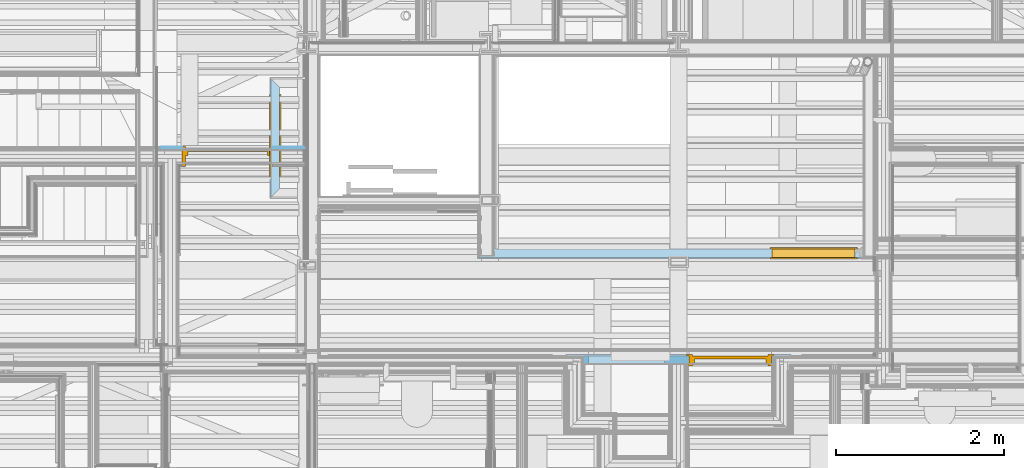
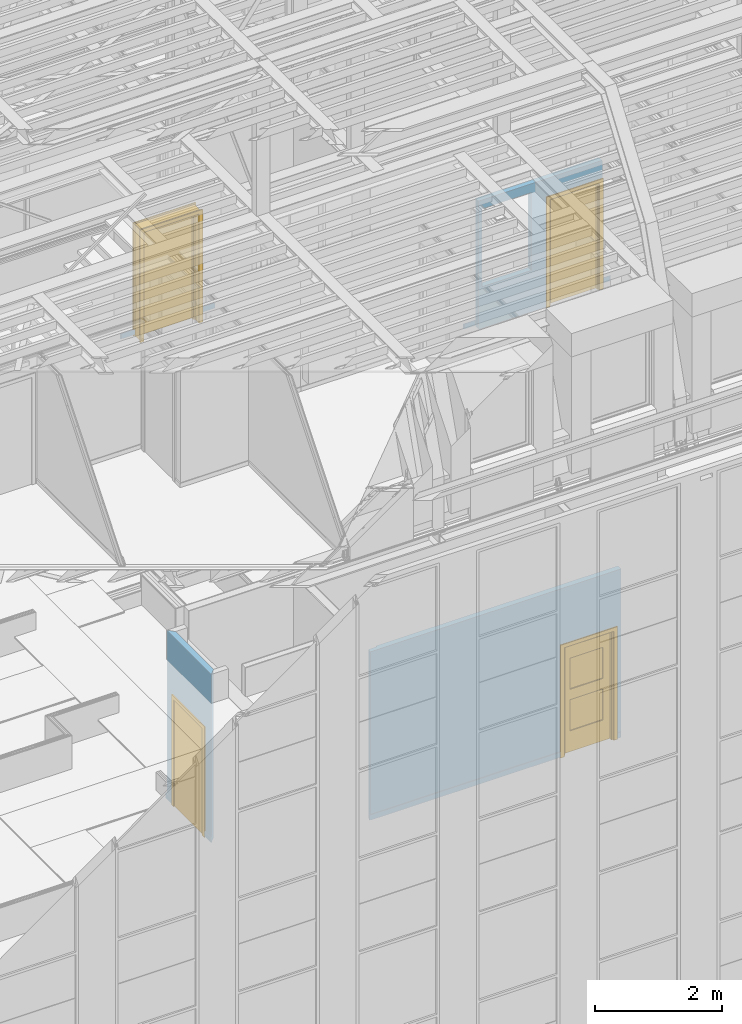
# One storey, part 98 of 183: 4 doors, 5 openings, plus 4 elements that do not belong to this part.
"""IFC2X3 building model written with IfcOpenShell, lengths in metres."""

from ifc_helpers import new_model, entity, si_unit, converted_unit, derived_unit, money_unit, direction, frame, frame_2d, origin_with_axes, place, context, subcontext, project, spatial, polyline, rectangle, outline, extrude, clip, bounded_halfspace, faceted_brep, material, layer, layer_set, layer_usage, type_object, element, fill, save


model = new_model("IFC2X3")

# Units and contexts
model_context = context("Model", 3, precision=1e-05, world=origin_with_axes(), true_north=direction((0.0, 1.0)))
body_context = subcontext(model_context, "Body", "Model", "MODEL_VIEW", scale=1.0)
ifc_project = project(units=[si_unit("LENGTHUNIT", "METRE"), si_unit("AREAUNIT", "SQUARE_METRE"), si_unit("VOLUMEUNIT", "CUBIC_METRE"), si_unit("ABSORBEDDOSEUNIT", "GRAY"), si_unit("AMOUNTOFSUBSTANCEUNIT", "MOLE"), si_unit("DOSEEQUIVALENTUNIT", "SIEVERT"), si_unit("ELECTRICCAPACITANCEUNIT", "FARAD"), si_unit("ELECTRICCHARGEUNIT", "COULOMB"), si_unit("ELECTRICCONDUCTANCEUNIT", "SIEMENS"), si_unit("ELECTRICCURRENTUNIT", "AMPERE"), si_unit("ELECTRICRESISTANCEUNIT", "OHM"), si_unit("ELECTRICVOLTAGEUNIT", "VOLT"), si_unit("ENERGYUNIT", "JOULE"), si_unit("FORCEUNIT", "NEWTON"), si_unit("FREQUENCYUNIT", "HERTZ"), si_unit("ILLUMINANCEUNIT", "LUX"), si_unit("INDUCTANCEUNIT", "HENRY"), si_unit("LUMINOUSFLUXUNIT", "LUMEN"), si_unit("LUMINOUSINTENSITYUNIT", "CANDELA"), si_unit("MAGNETICFLUXDENSITYUNIT", "TESLA"), si_unit("MAGNETICFLUXUNIT", "WEBER"), si_unit("MASSUNIT", "GRAM"), converted_unit("PLANEANGLEUNIT", "degree", entity("IfcReal", 0.0174532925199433), si_unit("PLANEANGLEUNIT", "RADIAN"), dimensions=[0, 0, 0, 0, 0, 0, 0]), si_unit("POWERUNIT", "WATT"), si_unit("PRESSUREUNIT", "PASCAL"), si_unit("RADIOACTIVITYUNIT", "BECQUEREL"), si_unit("SOLIDANGLEUNIT", "STERADIAN"), si_unit("THERMODYNAMICTEMPERATUREUNIT", "KELVIN"), si_unit("TIMEUNIT", "SECOND"), derived_unit("ACCELERATIONUNIT", [(si_unit("LENGTHUNIT", "METRE"), 1), (si_unit("TIMEUNIT", "SECOND"), -2)]), derived_unit("ANGULARVELOCITYUNIT", [(converted_unit("PLANEANGLEUNIT", "degree", entity("IfcReal", 0.0174532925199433), si_unit("PLANEANGLEUNIT", "RADIAN"), dimensions=[0, 0, 0, 0, 0, 0, 0]), 1), (si_unit("TIMEUNIT", "SECOND"), -1)]), derived_unit("CURVATUREUNIT", [(converted_unit("PLANEANGLEUNIT", "degree", entity("IfcReal", 0.0174532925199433), si_unit("PLANEANGLEUNIT", "RADIAN"), dimensions=[0, 0, 0, 0, 0, 0, 0]), 1), (si_unit("LENGTHUNIT", "METRE"), -1)]), derived_unit("DYNAMICVISCOSITYUNIT", [(si_unit("PRESSUREUNIT", "PASCAL"), 1), (si_unit("TIMEUNIT", "SECOND"), 1)]), derived_unit("HEATFLUXDENSITYUNIT", [(si_unit("POWERUNIT", "WATT"), 1), (si_unit("LENGTHUNIT", "METRE"), -2)]), derived_unit("HEATINGVALUEUNIT", [(si_unit("ENERGYUNIT", "JOULE"), 1), (si_unit("MASSUNIT", "GRAM"), -1)]), derived_unit("INTEGERCOUNTRATEUNIT", [(si_unit("TIMEUNIT", "SECOND"), -1)]), derived_unit("IONCONCENTRATIONUNIT", [(si_unit("MASSUNIT", "GRAM"), 1), (si_unit("VOLUMEUNIT", "CUBIC_METRE"), -1)]), derived_unit("ISOTHERMALMOISTURECAPACITYUNIT", [(si_unit("VOLUMEUNIT", "CUBIC_METRE"), 1), (si_unit("MASSUNIT", "GRAM"), -1)]), derived_unit("KINEMATICVISCOSITYUNIT", [(si_unit("AREAUNIT", "SQUARE_METRE"), 1), (si_unit("TIMEUNIT", "SECOND"), -1)]), derived_unit("LINEARFORCEUNIT", [(si_unit("FORCEUNIT", "NEWTON"), 1), (si_unit("LENGTHUNIT", "METRE"), -1)]), derived_unit("LINEARMOMENTUNIT", [(si_unit("FORCEUNIT", "NEWTON"), 1), (si_unit("LENGTHUNIT", "METRE"), -1)]), derived_unit("LINEARSTIFFNESSUNIT", [(si_unit("FORCEUNIT", "NEWTON"), 1), (si_unit("LENGTHUNIT", "METRE"), -1)]), derived_unit("LINEARVELOCITYUNIT", [(si_unit("LENGTHUNIT", "METRE"), 1), (si_unit("TIMEUNIT", "SECOND"), -1)]), derived_unit("LUMINOUSINTENSITYDISTRIBUTIONUNIT", [(si_unit("LUMINOUSINTENSITYUNIT", "CANDELA"), 1), (si_unit("LUMINOUSFLUXUNIT", "LUMEN"), -1)]), derived_unit("MASSDENSITYUNIT", [(si_unit("MASSUNIT", "GRAM"), 1), (si_unit("VOLUMEUNIT", "CUBIC_METRE"), -1)]), derived_unit("MASSFLOWRATEUNIT", [(si_unit("MASSUNIT", "GRAM"), 1), (si_unit("TIMEUNIT", "SECOND"), -1)]), derived_unit("MASSPERLENGTHUNIT", [(si_unit("MASSUNIT", "GRAM"), 1), (si_unit("LENGTHUNIT", "METRE"), -1)]), derived_unit("MODULUSOFELASTICITYUNIT", [(si_unit("FORCEUNIT", "NEWTON"), 1), (si_unit("AREAUNIT", "SQUARE_METRE"), -1)]), derived_unit("MODULUSOFLINEARSUBGRADEREACTIONUNIT", [(si_unit("FORCEUNIT", "NEWTON"), 1), (si_unit("LENGTHUNIT", "METRE"), -2)]), derived_unit("MODULUSOFROTATIONALSUBGRADEREACTIONUNIT", [(si_unit("FORCEUNIT", "NEWTON"), 1), (si_unit("LENGTHUNIT", "METRE"), 1)]), derived_unit("MODULUSOFSUBGRADEREACTIONUNIT", [(si_unit("FORCEUNIT", "NEWTON"), 1), (si_unit("VOLUMEUNIT", "CUBIC_METRE"), -1)]), derived_unit("MOISTUREDIFFUSIVITYUNIT", [(si_unit("VOLUMEUNIT", "CUBIC_METRE"), 1), (si_unit("TIMEUNIT", "SECOND"), -1)]), derived_unit("MOLECULARWEIGHTUNIT", [(si_unit("MASSUNIT", "GRAM"), 1), (si_unit("AMOUNTOFSUBSTANCEUNIT", "MOLE"), -1)]), derived_unit("PLANARFORCEUNIT", [(si_unit("FORCEUNIT", "NEWTON"), 1), (si_unit("LENGTHUNIT", "METRE"), -2)]), derived_unit("ROTATIONALFREQUENCYUNIT", [(si_unit("TIMEUNIT", "SECOND"), -1)]), derived_unit("ROTATIONALMASSUNIT", [(si_unit("MASSUNIT", "GRAM"), 1), (si_unit("LENGTHUNIT", "METRE"), 2)]), derived_unit("ROTATIONALSTIFFNESSUNIT", [(si_unit("FORCEUNIT", "NEWTON"), 1), (si_unit("LENGTHUNIT", "METRE"), 1), (converted_unit("PLANEANGLEUNIT", "degree", entity("IfcReal", 0.0174532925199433), si_unit("PLANEANGLEUNIT", "RADIAN"), dimensions=[0, 0, 0, 0, 0, 0, 0]), -1)]), derived_unit("SECTIONAREAINTEGRALUNIT", [(si_unit("LENGTHUNIT", "METRE"), 5)]), derived_unit("SECTIONMODULUSUNIT", [(si_unit("LENGTHUNIT", "METRE"), 3)]), derived_unit("SHEARMODULUSUNIT", [(si_unit("FORCEUNIT", "NEWTON"), 1), (si_unit("AREAUNIT", "SQUARE_METRE"), -1)]), derived_unit("SOUNDPOWERUNIT", [(si_unit("ENERGYUNIT", "JOULE"), 1), (si_unit("TIMEUNIT", "SECOND"), -1)]), derived_unit("SPECIFICHEATCAPACITYUNIT", [(si_unit("FORCEUNIT", "NEWTON"), 1), (si_unit("MASSUNIT", "GRAM"), -1), (si_unit("THERMODYNAMICTEMPERATUREUNIT", "KELVIN"), -1)]), derived_unit("TEMPERATUREGRADIENTUNIT", [(si_unit("THERMODYNAMICTEMPERATUREUNIT", "KELVIN"), 1), (si_unit("LENGTHUNIT", "METRE"), -1)]), derived_unit("THERMALADMITTANCEUNIT", [(si_unit("POWERUNIT", "WATT"), 1), (si_unit("AREAUNIT", "SQUARE_METRE"), -1), (si_unit("THERMODYNAMICTEMPERATUREUNIT", "KELVIN"), -1)]), derived_unit("THERMALCONDUCTANCEUNIT", [(si_unit("POWERUNIT", "WATT"), 1), (si_unit("LENGTHUNIT", "METRE"), -1), (si_unit("THERMODYNAMICTEMPERATUREUNIT", "KELVIN"), -1)]), derived_unit("THERMALEXPANSIONCOEFFICIENTUNIT", [(si_unit("THERMODYNAMICTEMPERATUREUNIT", "KELVIN"), -1)]), derived_unit("THERMALRESISTANCEUNIT", [(si_unit("AREAUNIT", "SQUARE_METRE"), 1), (si_unit("POWERUNIT", "WATT"), -1)]), derived_unit("THERMALTRANSMITTANCEUNIT", [(si_unit("POWERUNIT", "WATT"), 1), (si_unit("AREAUNIT", "SQUARE_METRE"), -1), (si_unit("THERMODYNAMICTEMPERATUREUNIT", "KELVIN"), -1)]), derived_unit("TORQUEUNIT", [(si_unit("FORCEUNIT", "NEWTON"), 1), (si_unit("LENGTHUNIT", "METRE"), 1)]), derived_unit("VAPORPERMEABILITYUNIT", [(si_unit("MASSUNIT", "GRAM"), 1), (si_unit("TIMEUNIT", "SECOND"), -1)]), derived_unit("VOLUMETRICFLOWRATEUNIT", [(si_unit("VOLUMEUNIT", "CUBIC_METRE"), 1), (si_unit("TIMEUNIT", "SECOND"), -1)]), derived_unit("WARPINGCONSTANTUNIT", [(si_unit("LENGTHUNIT", "METRE"), 6)]), derived_unit("WARPINGMOMENTUNIT", [(si_unit("FORCEUNIT", "NEWTON"), 1), (si_unit("LENGTHUNIT", "METRE"), 2)]), money_unit("GBP")], contexts=[model_context])

# Site, building, storey
site_placement = place(None, origin_with_axes())
site = spatial("IfcSite", under=ifc_project, at=site_placement, Name="Site", CompositionType="ELEMENT")
building_placement = place(site_placement, origin_with_axes())
building = spatial("IfcBuilding", under=site, at=building_placement, Name="Building01", CompositionType="ELEMENT")
storey_placement = place(building_placement, frame((0.0, 0.0, 5.15), z_axis=(0.0, 0.0, 1.0), x_axis=(1.0, 0.0, 0.0)))
storey = spatial("IfcBuildingStorey", under=building, at=storey_placement, Name="1F", CompositionType="ELEMENT", Elevation=5.15)

# Wall, opening
ifc_material_1 = material(Name="A_BSUK_Walls_Timber")
ifc_layer_1 = layer(ifc_material_1, 0.015, ventilated=False)
ifc_layer_set_1 = layer_set([ifc_layer_1])
ifc_layer_usage_1 = layer_usage(ifc_layer_set_1, "AXIS2", "POSITIVE", 0.0)
wall_type_1 = type_object("IfcWallType", Name="default", PredefinedType="NOTDEFINED")
wall_1_placement = place(storey_placement, frame((9.045, 7.564939, 9.795), z_axis=(0.0, 0.0, 1.0), x_axis=(-1.0, 0.0, 0.0)))
wall_1 = element("IfcWallStandardCase", 1, at=wall_1_placement, inside=storey, type_object=wall_type_1, material=ifc_layer_usage_1, Name="default", ObjectType="default", context=body_context, shape_type="SweptSolid", body=[
    extrude(outline(polyline([(1.685, 0.015), (-0.015, 0.015), (0.0, 0.0), (1.7, 0.0), (1.685, 0.015)])), origin_with_axes(), (0.0, 0.0, 1.0), 0.1),
])
opening_1_placement = place(wall_1_placement, frame((0.359, 0.0, -0.015), z_axis=(0.0, 0.0, 1.0), x_axis=(1.0, 0.0, 0.0)))
opening_1 = element("IfcOpeningElement", 2, at=opening_1_placement, cuts=wall_1, Name="Opening", ObjectType="Opening", context=body_context, shape_type="SweptSolid", body=[
    extrude(rectangle(XDim=2.142, YDim=1.084, at=frame_2d((-0.542, 1.071), x_axis=(0.0, -1.0))), frame((0.0, 0.0, 0.0), z_axis=(0.0, 1.0, 0.0), x_axis=(-1.0, 0.0, 0.0)), (0.0, 0.0, 1.0), 0.015),
])

# Space
space_1_placement = place(storey_placement, frame((1.009939, 13.890379, 9.81), z_axis=(0.0, 0.0, 1.0), x_axis=(0.0, -1.0, 0.0)))
space_1 = spatial("IfcSpace", under=storey, at=space_1_placement, Name="26", CompositionType="ELEMENT", InteriorOrExteriorSpace="NOTDEFINED")

# Door
ifc_material_2 = material(Name="A_BSUK_Doors")
door_style_1 = type_object("IfcDoorStyle", Name="A-Doors-SingleFlush", ConstructionType="USERDEFINED", OperationType="SINGLE_SWING_RIGHT", ParameterTakesPrecedence=False, Sizeable=False)
door_1_placement = place(opening_1_placement, frame((1.042, 0.015, 0.0), z_axis=(0.0, 0.0, 1.0), x_axis=(-1.0, 0.0, 0.0)))
door_1 = element("IfcDoor", 3, at=door_1_placement, inside=space_1, type_object=door_style_1, material=ifc_material_2, Name="4.25", ObjectType="A-Doors-SingleFlush", OverallHeight=2.142, OverallWidth=1.084, context=body_context, shape_type="Brep", body=[
    faceted_brep([(1.0, -0.219, 0.0), (1.069, -0.219, 0.0), (1.069, -0.219, 2.169), (-0.069, -0.219, 2.169), (-0.069, -0.219, 0.0), (0.0, -0.219, 0.0), (0.0, -0.219, 2.1), (1.0, -0.219, 2.1), (-0.069, -0.2, 0.0), (-0.069, -0.2, 2.169), (1.069, -0.2, 2.169), (1.069, -0.2, 0.0), (1.0, 0.019, 0.0), (1.069, 0.019, 0.0), (1.069, 0.0, 0.0), (1.042, 0.0, 0.0), (1.042, -0.2, 0.0), (1.0, 0.019, 2.1), (0.0, 0.019, 2.1), (0.0, 0.019, 0.0), (-0.069, 0.019, 0.0), (-0.069, 0.019, 2.169), (1.069, 0.019, 2.169), (1.069, 0.0, 2.169), (1.042, -0.2, 2.142), (1.042, 0.0, 2.142), (-0.042, -0.2, 2.142), (-0.042, 0.0, 2.142), (-0.042, -0.2, 0.0), (-0.042, 0.0, 0.0), (-0.069, 0.0, 2.169), (-0.069, 0.0, 0.0)], [[[0, 1, 2, 3, 4, 5, 6, 7]], [[8, 4, 3, 9]], [[10, 2, 1, 11]], [[9, 3, 2, 10]], [[12, 13, 14, 15, 16, 11, 1, 0]], [[7, 17, 12, 0]], [[6, 18, 17, 7]], [[18, 19, 20, 21, 22, 13, 12, 17]], [[5, 19, 18, 6]], [[13, 22, 23, 14]], [[24, 16, 15, 25]], [[26, 24, 25, 27]], [[11, 16, 24, 26, 28, 8, 9, 10]], [[27, 29, 28, 26]], [[25, 15, 14, 23, 30, 31, 29, 27]], [[5, 4, 8, 28, 29, 31, 20, 19]], [[30, 21, 20, 31]], [[23, 22, 21, 30]]]),
    faceted_brep([(0.0, -0.09, 2.1), (0.0, -0.04, 2.1), (0.0, -0.04, 0.0), (0.0, -0.09, 0.0), (0.975, -0.09, 0.0), (1.0, -0.09, 0.0), (1.0, -0.09, 2.1), (0.025, -0.09, 0.0), (0.025, -0.09, 2.075), (0.975, -0.09, 2.075), (0.975, -0.04, 0.0), (1.0, -0.04, 0.0), (1.0, -0.04, 2.1), (0.025, -0.04, 2.075), (0.025, -0.04, 0.0), (0.975, -0.04, 2.075)], [[[0, 1, 2, 3]], [[4, 5, 6, 0, 3, 7, 8, 9]], [[10, 11, 5, 4]], [[6, 12, 1, 0]], [[5, 11, 12, 6]], [[13, 14, 2, 1, 12, 11, 10, 15]], [[7, 14, 13, 8]], [[7, 3, 2, 14]], [[9, 15, 10, 4]], [[8, 13, 15, 9]]]),
    faceted_brep([(1.0, -0.04, 0.0), (1.0, 0.0, 0.0), (1.0, 0.0, 2.1), (1.0, -0.04, 2.1), (0.0, -0.04, 2.1), (0.0, 0.0, 2.1), (0.0, 0.0, 0.0), (0.0, -0.04, 0.0)], [[[0, 1, 2, 3]], [[4, 5, 6, 7]], [[7, 6, 1, 0]], [[3, 4, 7, 0]], [[3, 2, 5, 4]], [[1, 6, 5, 2]]]),
])

fill(opening_1, door_1)

# Wall, opening
ifc_material_3 = material(Name="A_BSUK_WallInternal_Finishes_Plasterboard")
ifc_layer_2 = layer(ifc_material_3, 0.015, ventilated=False)
ifc_material_4 = material(Name="Air Cavity")
ifc_layer_3 = layer(ifc_material_4, 0.072, ventilated=False)
ifc_layer_set_2 = layer_set([ifc_layer_2, ifc_layer_3, ifc_layer_2, ifc_layer_1])
ifc_layer_usage_2 = layer_usage(ifc_layer_set_2, "AXIS2", "POSITIVE", 0.0)
wall_type_2 = type_object("IfcWallType", Name="SHE_A-Walls_Type04c_RiserWall_102mm_tall", PredefinedType="NOTDEFINED")
wall_2_placement = place(storey_placement, frame((8.658, 6.968405, 0.015), z_axis=(0.0, 0.0, 1.0), x_axis=(0.0, 1.0, 0.0)))
wall_2 = element("IfcWallStandardCase", 4, at=wall_2_placement, inside=storey, type_object=wall_type_2, material=ifc_layer_usage_2, Name="4C", ObjectType="SHE_A-Walls_Type04c_RiserWall_102mm_tall", context=body_context, shape_type="Clipping", body=[
    clip(clip(extrude(outline(polyline([(1.389, -0.015), (1.389, 0.0), (1.404, 0.0), (1.419, 0.015), (-0.015, 0.015), (0.102, -0.102), (1.302, -0.102), (1.389, -0.015)])), frame((0.0, 0.0, -0.015), z_axis=(0.0, 0.0, 1.0), x_axis=(1.0, 0.0, 0.0)), (0.0, 0.0, 1.0), 3.24), bounded_halfspace(frame((0.0, 0.0, 0.1), z_axis=(0.0, 0.0, 1.0), x_axis=(1.0, 0.0, 0.0)), False, frame((0.0, 0.0, 0.1), z_axis=(0.0, 0.0, 1.0), x_axis=(1.0, 0.0, 0.0)), polyline([(1.419, 0.015), (-0.015, 0.015), (0.0, 0.0), (1.404, 0.0), (1.419, 0.015)]))), bounded_halfspace(frame((0.0, 0.0, 0.0), z_axis=(0.0, 0.0, -1.0), x_axis=(-1.0, 0.0, 0.0)), False, frame((0.0, 0.0, 0.0), z_axis=(0.0, 0.0, -1.0), x_axis=(-1.0, 0.0, 0.0)), polyline([(-1.404, 0.0), (0.0, 0.0), (0.015, 0.015), (-1.419, 0.015), (-1.404, 0.0)]))),
])
opening_2_placement = place(wall_2_placement, frame((0.21, -0.102, -0.015), z_axis=(0.0, 0.0, 1.0), x_axis=(1.0, 0.0, 0.0)))
opening_2 = element("IfcOpeningElement", 5, at=opening_2_placement, cuts=wall_2, Name="Opening", ObjectType="Opening", context=body_context, shape_type="SweptSolid", body=[
    extrude(rectangle(XDim=0.984, YDim=2.1, at=frame_2d((-0.492, 1.05), x_axis=(1.0, 0.0))), frame((0.0, 0.0, 0.0), z_axis=(0.0, 1.0, 0.0), x_axis=(-1.0, 0.0, 0.0)), (0.0, 0.0, 1.0), 0.117),
])

# Space
space_2_placement = place(storey_placement, frame((7.287055, 5.205, 0.017932), z_axis=(0.0, 0.0, 1.0), x_axis=(1.0, 0.0, 0.0)))
space_2 = spatial("IfcSpace", under=storey, at=space_2_placement, Name="2", CompositionType="ELEMENT", InteriorOrExteriorSpace="NOTDEFINED")

# Door
door_style_2 = type_object("IfcDoorStyle", Name="A-Doors-DoubleFlush", ConstructionType="USERDEFINED", OperationType="DOUBLE_DOOR_SINGLE_SWING", ParameterTakesPrecedence=False, Sizeable=False)
door_2_placement = place(opening_2_placement, frame((0.042, 0.102, 0.0), z_axis=(0.0, 0.0, 1.0), x_axis=(1.0, 0.0, 0.0)))
door_2 = element("IfcDoor", 6, at=door_2_placement, inside=space_2, type_object=door_style_2, material=ifc_material_2, Name="1.28", ObjectType="A-Doors-DoubleFlush", OverallHeight=2.1, OverallWidth=0.983999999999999, context=body_context, shape_type="Brep", body=[
    faceted_brep([(0.0, -0.121, 2.058), (0.9, -0.121, 2.058), (0.9, -0.121, 0.0), (0.969, -0.121, 0.0), (0.969, -0.121, 2.127), (-0.069, -0.121, 2.127), (-0.069, -0.121, 0.0), (0.0, -0.121, 0.0), (0.969, -0.102, 2.127), (0.969, -0.102, 0.0), (-0.069, -0.102, 0.0), (-0.069, -0.102, 2.127), (-0.042, -0.102, 0.0), (-0.042, 0.0, 0.0), (-0.069, 0.0, 0.0), (-0.069, 0.019, 0.0), (0.0, 0.019, 0.0), (0.0, 0.019, 2.058), (0.9, 0.019, 2.058), (-0.069, 0.019, 2.127), (0.969, 0.019, 2.127), (0.969, 0.019, 0.0), (0.9, 0.019, 0.0), (-0.069, 0.0, 2.127), (-0.042, 0.0, 2.1), (-0.042, -0.102, 2.1), (0.942, 0.0, 2.1), (0.942, -0.102, 2.1), (0.942, -0.102, 0.0), (0.942, 0.0, 0.0), (0.969, 0.0, 0.0), (0.969, 0.0, 2.127)], [[[0, 1, 2, 3, 4, 5, 6, 7]], [[8, 4, 3, 9]], [[10, 6, 5, 11]], [[11, 5, 4, 8]], [[7, 6, 10, 12, 13, 14, 15, 16]], [[7, 16, 17, 0]], [[0, 17, 18, 1]], [[17, 16, 15, 19, 20, 21, 22, 18]], [[1, 18, 22, 2]], [[14, 23, 19, 15]], [[24, 13, 12, 25]], [[26, 24, 25, 27]], [[11, 8, 9, 28, 27, 25, 12, 10]], [[27, 28, 29, 26]], [[26, 29, 30, 31, 23, 14, 13, 24]], [[22, 21, 30, 29, 28, 9, 3, 2]], [[30, 21, 20, 31]], [[31, 20, 19, 23]]]),
    faceted_brep([(0.9, -0.09, 0.0), (0.9, -0.04, 0.0), (0.9, -0.04, 2.058), (0.9, -0.09, 2.058), (0.025, -0.09, 2.033), (0.875, -0.09, 2.033), (0.875, -0.09, 0.0), (0.0, -0.09, 2.058), (0.0, -0.09, 0.0), (0.025, -0.09, 0.0), (0.0, -0.04, 0.0), (0.025, -0.04, 0.0), (0.0, -0.04, 2.058), (0.025, -0.04, 2.033), (0.875, -0.04, 0.0), (0.875, -0.04, 2.033)], [[[0, 1, 2, 3]], [[4, 5, 6, 0, 3, 7, 8, 9]], [[9, 8, 10, 11]], [[3, 2, 12, 7]], [[7, 12, 10, 8]], [[13, 11, 10, 12, 2, 1, 14, 15]], [[5, 15, 14, 6]], [[14, 1, 0, 6]], [[9, 11, 13, 4]], [[4, 13, 15, 5]]]),
    faceted_brep([(0.0, -0.04, 2.058), (0.0, 0.0, 2.058), (0.0, 0.0, 0.0), (0.0, -0.04, 0.0), (0.45, -0.04, 0.0), (0.45, 0.0, 0.0), (0.45, 0.0, 2.058), (0.45, -0.04, 2.058)], [[[0, 1, 2, 3]], [[4, 5, 6, 7]], [[3, 2, 5, 4]], [[3, 4, 7, 0]], [[7, 6, 1, 0]], [[1, 6, 5, 2]]]),
    faceted_brep([(0.45, -0.04, 2.058), (0.45, 0.0, 2.058), (0.45, 0.0, 0.0), (0.45, -0.04, 0.0), (0.9, -0.04, 0.0), (0.9, 0.0, 0.0), (0.9, 0.0, 2.058), (0.9, -0.04, 2.058)], [[[0, 1, 2, 3]], [[4, 5, 6, 7]], [[3, 2, 5, 4]], [[3, 4, 7, 0]], [[7, 6, 1, 0]], [[1, 6, 5, 2]]]),
])

fill(opening_2, door_2)

# Wall, opening
ifc_layer_4 = layer(ifc_material_3, 0.013, ventilated=False)
ifc_layer_5 = layer(ifc_material_3, 0.012, ventilated=False)
ifc_layer_6 = layer(ifc_material_4, 0.05, ventilated=False)
ifc_layer_set_3 = layer_set([ifc_layer_1, ifc_layer_4, ifc_layer_5, ifc_layer_6, ifc_layer_5, ifc_layer_4])
ifc_layer_usage_3 = layer_usage(ifc_layer_set_3, "AXIS2", "POSITIVE", 0.0)
wall_type_3 = type_object("IfcWallType", Name="SHE_A-Walls_Type03c_Firewall_F120_100mm", PredefinedType="NOTDEFINED")
wall_3_placement = place(storey_placement, frame((11.115, 6.25, 0.015), z_axis=(0.0, 0.0, 1.0), x_axis=(1.0, 0.0, 0.0)))
wall_3 = element("IfcWallStandardCase", 7, at=wall_3_placement, inside=storey, type_object=wall_type_3, material=ifc_layer_usage_3, Name="3C", ObjectType="SHE_A-Walls_Type03c_Firewall_F120_100mm", context=body_context, shape_type="Clipping", body=[
    clip(clip(extrude(outline(polyline([(4.585, 0.0), (4.585, 0.1), (0.185, 0.1), (0.185, 0.075), (0.03, 0.075), (0.03, 0.0), (0.0, 0.0), (0.0, -0.015), (4.57, -0.015), (4.585, 0.0)])), frame((0.0, 0.0, -0.015), z_axis=(0.0, 0.0, 1.0), x_axis=(1.0, 0.0, 0.0)), (0.0, 0.0, 1.0), 3.24), bounded_halfspace(frame((0.0, 0.0, 0.1), z_axis=(0.0, 0.0, 1.0), x_axis=(1.0, 0.0, 0.0)), False, frame((0.0, 0.0, 0.1), z_axis=(0.0, 0.0, 1.0), x_axis=(1.0, 0.0, 0.0)), polyline([(4.585, 0.0), (0.0, 0.0), (0.0, -0.015), (4.57, -0.015), (4.585, 0.0)]))), bounded_halfspace(frame((0.0, 0.0, 0.0), z_axis=(0.0, 0.0, -1.0), x_axis=(-1.0, 0.0, 0.0)), False, frame((0.0, 0.0, 0.0), z_axis=(0.0, 0.0, -1.0), x_axis=(-1.0, 0.0, 0.0)), polyline([(-4.57, -0.015), (0.0, -0.015), (0.0, 0.0), (-4.585, 0.0), (-4.57, -0.015)]))),
])
opening_3_placement = place(wall_3_placement, frame((3.501, -0.015, -0.03), z_axis=(0.0, 0.0, 1.0), x_axis=(1.0, 0.0, 0.0)))
opening_3 = element("IfcOpeningElement", 8, at=opening_3_placement, cuts=wall_3, Name="Opening", ObjectType="Opening", context=body_context, shape_type="SweptSolid", body=[
    extrude(rectangle(XDim=2.142, YDim=0.984, at=frame_2d((-0.492, 1.071), x_axis=(0.0, 1.0))), frame((0.0, 0.0, 0.0), z_axis=(0.0, 1.0, 0.0), x_axis=(-1.0, 0.0, 0.0)), (0.0, 0.0, 1.0), 0.115),
])

# Space
space_3_placement = place(storey_placement, frame((14.609584, 7.454282, 0.017932), z_axis=(0.0, 0.0, 1.0), x_axis=(-1.0, 0.0, 0.0)))
space_3 = spatial("IfcSpace", under=storey, at=space_3_placement, Name="landing", CompositionType="ELEMENT", InteriorOrExteriorSpace="NOTDEFINED")

# Door
door_style_3 = type_object("IfcDoorStyle", Name="A-Doors-SingleVisionPanels", ConstructionType="USERDEFINED", OperationType="SINGLE_SWING_RIGHT", ParameterTakesPrecedence=False, Sizeable=False)
door_3_placement = place(opening_3_placement, frame((0.042, 0.115, 0.015), z_axis=(0.0, 0.0, 1.0), x_axis=(1.0, 0.0, 0.0)))
door_3 = element("IfcDoor", 9, at=door_3_placement, inside=space_3, type_object=door_style_3, material=ifc_material_2, Name="1.04", ObjectType="A-Doors-SingleVisionPanels", OverallHeight=2.14200000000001, OverallWidth=0.984000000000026, context=body_context, shape_type="Brep", body=[
    faceted_brep([(0.9, -0.119, 0.0), (0.969, -0.119, 0.0), (0.969, -0.119, 2.169), (-0.069, -0.119, 2.169), (-0.069, -0.119, 0.0), (0.0, -0.119, 0.0), (0.0, -0.119, 2.1), (0.9, -0.119, 2.1), (-0.069, -0.1, 0.0), (-0.069, -0.1, 2.169), (0.969, -0.1, 2.169), (0.969, -0.1, 0.0), (0.9, 0.019, 0.0), (0.969, 0.019, 0.0), (0.969, 0.0, 0.0), (0.942, 0.0, 0.0), (0.942, -0.1, 0.0), (0.9, 0.019, 2.1), (0.0, 0.019, 2.1), (0.0, 0.019, 0.0), (-0.069, 0.019, 0.0), (-0.069, 0.019, 2.169), (0.969, 0.019, 2.169), (0.969, 0.0, 2.169), (0.942, -0.1, 2.142), (0.942, 0.0, 2.142), (-0.042, -0.1, 2.142), (-0.042, 0.0, 2.142), (-0.042, -0.1, 0.0), (-0.042, 0.0, 0.0), (-0.069, 0.0, 2.169), (-0.069, 0.0, 0.0)], [[[0, 1, 2, 3, 4, 5, 6, 7]], [[8, 4, 3, 9]], [[10, 2, 1, 11]], [[9, 3, 2, 10]], [[12, 13, 14, 15, 16, 11, 1, 0]], [[7, 17, 12, 0]], [[6, 18, 17, 7]], [[18, 19, 20, 21, 22, 13, 12, 17]], [[5, 19, 18, 6]], [[13, 22, 23, 14]], [[24, 16, 15, 25]], [[26, 24, 25, 27]], [[11, 16, 24, 26, 28, 8, 9, 10]], [[27, 29, 28, 26]], [[25, 15, 14, 23, 30, 31, 29, 27]], [[5, 4, 8, 28, 29, 31, 20, 19]], [[30, 21, 20, 31]], [[23, 22, 21, 30]]]),
    faceted_brep([(0.0, -0.09, 2.1), (0.0, -0.04, 2.1), (0.0, -0.04, 0.0), (0.0, -0.09, 0.0), (0.875, -0.09, 0.0), (0.9, -0.09, 0.0), (0.9, -0.09, 2.1), (0.025, -0.09, 0.0), (0.025, -0.09, 2.075), (0.875, -0.09, 2.075), (0.875, -0.04, 0.0), (0.9, -0.04, 0.0), (0.9, -0.04, 2.1), (0.025, -0.04, 2.075), (0.025, -0.04, 0.0), (0.875, -0.04, 2.075)], [[[0, 1, 2, 3]], [[4, 5, 6, 0, 3, 7, 8, 9]], [[10, 11, 5, 4]], [[6, 12, 1, 0]], [[5, 11, 12, 6]], [[13, 14, 2, 1, 12, 11, 10, 15]], [[7, 14, 13, 8]], [[7, 3, 2, 14]], [[9, 15, 10, 4]], [[8, 13, 15, 9]]]),
    faceted_brep([(0.75, -0.017, 1.0), (0.75, -0.023, 1.0), (0.75, -0.023, 0.4), (0.75, -0.017, 0.4), (0.15, -0.017, 0.4), (0.15, -0.023, 0.4), (0.15, -0.023, 1.0), (0.15, -0.017, 1.0)], [[[0, 1, 2, 3]], [[4, 5, 6, 7]], [[7, 6, 1, 0]], [[3, 4, 7, 0]], [[3, 2, 5, 4]], [[1, 6, 5, 2]]]),
    faceted_brep([(0.75, -0.017, 1.8), (0.75, -0.023, 1.8), (0.75, -0.023, 1.2), (0.75, -0.017, 1.2), (0.15, -0.017, 1.2), (0.15, -0.023, 1.2), (0.15, -0.023, 1.8), (0.15, -0.017, 1.8)], [[[0, 1, 2, 3]], [[4, 5, 6, 7]], [[7, 6, 1, 0]], [[3, 4, 7, 0]], [[3, 2, 5, 4]], [[1, 6, 5, 2]]]),
    faceted_brep([(0.15, -0.04, 1.8), (0.15, 0.0, 1.8), (0.75, 0.0, 1.8), (0.75, -0.04, 1.8), (0.15, -0.04, 0.4), (0.15, 0.0, 0.4), (0.15, 0.0, 1.0), (0.15, -0.04, 1.0), (0.75, -0.04, 0.4), (0.75, 0.0, 0.4), (0.75, -0.04, 1.0), (0.75, 0.0, 1.0), (0.0, 0.0, 2.1), (0.9, 0.0, 2.1), (0.9, 0.0, 0.0), (0.0, 0.0, 0.0), (0.15, 0.0, 1.2), (0.75, 0.0, 1.2), (0.0, -0.04, 2.1), (0.0, -0.04, 0.0), (0.9, -0.04, 2.1), (0.9, -0.04, 0.0), (0.15, -0.04, 1.2), (0.75, -0.04, 1.2)], [[[0, 1, 2, 3]], [[4, 5, 6, 7]], [[8, 9, 5, 4]], [[10, 11, 9, 8]], [[7, 6, 11, 10]], [[12, 13, 14, 15], [5, 9, 11, 6], [16, 17, 2, 1]], [[18, 12, 15, 19]], [[20, 13, 12, 18]], [[21, 14, 13, 20]], [[19, 15, 14, 21]], [[22, 16, 1, 0]], [[23, 17, 16, 22]], [[3, 2, 17, 23]], [[19, 21, 20, 18], [4, 7, 10, 8], [22, 0, 3, 23]]]),
])

fill(opening_3, door_3)

# Wall, openings
ifc_layer_set_4 = layer_set([ifc_layer_4, ifc_layer_5, ifc_layer_6, ifc_layer_5, ifc_layer_4, ifc_layer_1])
ifc_layer_usage_4 = layer_usage(ifc_layer_set_4, "AXIS2", "POSITIVE", 0.0)
wall_4_placement = place(storey_placement, frame((12.175, 5.08, 9.795), z_axis=(0.0, 0.0, 1.0), x_axis=(1.0, 0.0, 0.0)))
wall_4 = element("IfcWallStandardCase", 10, at=wall_4_placement, inside=storey, type_object=wall_type_3, material=ifc_layer_usage_4, Name="3C", ObjectType="SHE_A-Walls_Type03c_Firewall_F120_100mm", context=body_context, shape_type="Clipping", body=[
    clip(clip(extrude(outline(polyline([(2.45, 0.0), (2.65, 0.0), (2.665, 0.015), (-0.015, 0.015), (0.0, 0.0), (0.2, 0.0), (0.2, -0.1), (2.45, -0.1), (2.45, 0.0)])), frame((0.0, 0.0, -0.015), z_axis=(0.0, 0.0, 1.0), x_axis=(1.0, 0.0, 0.0)), (0.0, 0.0, 1.0), 2.468), bounded_halfspace(frame((0.0, 0.0, 0.1), z_axis=(0.0, 0.0, 1.0), x_axis=(1.0, 0.0, 0.0)), False, frame((0.0, 0.0, 0.1), z_axis=(0.0, 0.0, 1.0), x_axis=(1.0, 0.0, 0.0)), polyline([(2.665, 0.015), (-0.015, 0.015), (0.0, 0.0), (2.65, 0.0), (2.665, 0.015)]))), bounded_halfspace(frame((0.0, 0.0, 0.0), z_axis=(0.0, 0.0, -1.0), x_axis=(-1.0, 0.0, 0.0)), False, frame((0.0, 0.0, 0.0), z_axis=(0.0, 0.0, -1.0), x_axis=(-1.0, 0.0, 0.0)), polyline([(-2.65, 0.0), (0.0, 0.0), (0.015, 0.015), (-2.665, 0.015), (-2.65, 0.0)]))),
])
opening_4_placement = place(wall_4_placement, frame((1.45, -0.1, -0.045), z_axis=(0.0, 0.0, 1.0), x_axis=(1.0, 0.0, 0.0)))
opening_4 = element("IfcOpeningElement", 11, at=opening_4_placement, cuts=wall_4, Name="Opening", ObjectType="Opening", context=body_context, shape_type="SweptSolid", body=[
    extrude(rectangle(XDim=0.984, YDim=2.13, at=frame_2d((-0.492, 1.065), x_axis=(1.0, 0.0))), frame((0.0, 0.0, 0.0), z_axis=(0.0, 1.0, 0.0), x_axis=(-1.0, 0.0, 0.0)), (0.0, 0.0, 1.0), 0.115),
])
opening_5_placement = place(wall_4_placement, frame((0.258, -0.1, 0.785), z_axis=(0.0, 0.0, 1.0), x_axis=(1.0, 0.0, 0.0)))
element("IfcOpeningElement", 12, at=opening_5_placement, cuts=wall_4, Name="Opening", ObjectType="Recess", context=body_context, shape_type="SweptSolid", body=[
    extrude(rectangle(XDim=1.5, YDim=0.9, at=frame_2d((-0.45, 0.75), x_axis=(0.0, 1.0))), frame((0.0, 0.0, 0.0), z_axis=(0.0, 1.0, 0.0), x_axis=(-1.0, 0.0, 0.0)), (0.0, 0.0, 1.0), 0.1),
])

# Space
space_4_placement = place(storey_placement, frame((9.23, 5.08, 9.81), z_axis=(0.0, 0.0, 1.0), x_axis=(1.0, 0.0, 0.0)))
space_4 = spatial("IfcSpace", under=storey, at=space_4_placement, Name="hall (vented)", CompositionType="ELEMENT", InteriorOrExteriorSpace="NOTDEFINED")

# Door
door_style_4 = type_object("IfcDoorStyle", Name="A-Doors-DoubleFlush", ConstructionType="USERDEFINED", OperationType="DOUBLE_DOOR_SINGLE_SWING", ParameterTakesPrecedence=False, Sizeable=False)
door_4_placement = place(opening_4_placement, frame((0.042, 0.1, 0.03), z_axis=(0.0, 0.0, 1.0), x_axis=(1.0, 0.0, 0.0)))
door_4 = element("IfcDoor", 13, at=door_4_placement, inside=space_4, type_object=door_style_4, material=ifc_material_2, Name="4.03", ObjectType="A-Doors-DoubleFlush", OverallHeight=2.13, OverallWidth=0.984, context=body_context, shape_type="Brep", body=[
    faceted_brep([(0.0, -0.119, 2.058), (0.9, -0.119, 2.058), (0.9, -0.119, 0.0), (0.969, -0.119, 0.0), (0.969, -0.119, 2.127), (-0.069, -0.119, 2.127), (-0.069, -0.119, 0.0), (0.0, -0.119, 0.0), (0.969, -0.1, 2.127), (0.969, -0.1, 0.0), (-0.069, -0.1, 0.0), (-0.069, -0.1, 2.127), (-0.042, -0.1, 0.0), (-0.042, 0.0, 0.0), (-0.069, 0.0, 0.0), (-0.069, 0.019, 0.0), (0.0, 0.019, 0.0), (0.0, 0.019, 2.058), (0.9, 0.019, 2.058), (-0.069, 0.019, 2.127), (0.969, 0.019, 2.127), (0.969, 0.019, 0.0), (0.9, 0.019, 0.0), (-0.069, 0.0, 2.127), (-0.042, 0.0, 2.1), (-0.042, -0.1, 2.1), (0.942, 0.0, 2.1), (0.942, -0.1, 2.1), (0.942, -0.1, 0.0), (0.942, 0.0, 0.0), (0.969, 0.0, 0.0), (0.969, 0.0, 2.127)], [[[0, 1, 2, 3, 4, 5, 6, 7]], [[8, 4, 3, 9]], [[10, 6, 5, 11]], [[11, 5, 4, 8]], [[7, 6, 10, 12, 13, 14, 15, 16]], [[7, 16, 17, 0]], [[0, 17, 18, 1]], [[17, 16, 15, 19, 20, 21, 22, 18]], [[1, 18, 22, 2]], [[14, 23, 19, 15]], [[24, 13, 12, 25]], [[26, 24, 25, 27]], [[11, 8, 9, 28, 27, 25, 12, 10]], [[27, 28, 29, 26]], [[26, 29, 30, 31, 23, 14, 13, 24]], [[22, 21, 30, 29, 28, 9, 3, 2]], [[30, 21, 20, 31]], [[31, 20, 19, 23]]]),
    faceted_brep([(0.9, -0.09, 0.0), (0.9, -0.04, 0.0), (0.9, -0.04, 2.058), (0.9, -0.09, 2.058), (0.025, -0.09, 2.033), (0.875, -0.09, 2.033), (0.875, -0.09, 0.0), (0.0, -0.09, 2.058), (0.0, -0.09, 0.0), (0.025, -0.09, 0.0), (0.0, -0.04, 0.0), (0.025, -0.04, 0.0), (0.0, -0.04, 2.058), (0.025, -0.04, 2.033), (0.875, -0.04, 0.0), (0.875, -0.04, 2.033)], [[[0, 1, 2, 3]], [[4, 5, 6, 0, 3, 7, 8, 9]], [[9, 8, 10, 11]], [[3, 2, 12, 7]], [[7, 12, 10, 8]], [[13, 11, 10, 12, 2, 1, 14, 15]], [[5, 15, 14, 6]], [[14, 1, 0, 6]], [[9, 11, 13, 4]], [[4, 13, 15, 5]]]),
    faceted_brep([(0.0, -0.04, 2.058), (0.0, 0.0, 2.058), (0.0, 0.0, 0.0), (0.0, -0.04, 0.0), (0.45, -0.04, 0.0), (0.45, 0.0, 0.0), (0.45, 0.0, 2.058), (0.45, -0.04, 2.058)], [[[0, 1, 2, 3]], [[4, 5, 6, 7]], [[3, 2, 5, 4]], [[3, 4, 7, 0]], [[7, 6, 1, 0]], [[1, 6, 5, 2]]]),
    faceted_brep([(0.45, -0.04, 2.058), (0.45, 0.0, 2.058), (0.45, 0.0, 0.0), (0.45, -0.04, 0.0), (0.9, -0.04, 0.0), (0.9, 0.0, 0.0), (0.9, 0.0, 2.058), (0.9, -0.04, 2.058)], [[[0, 1, 2, 3]], [[4, 5, 6, 7]], [[3, 2, 5, 4]], [[3, 4, 7, 0]], [[7, 6, 1, 0]], [[1, 6, 5, 2]]]),
])

fill(opening_4, door_4)

save(model, "model.ifc")
